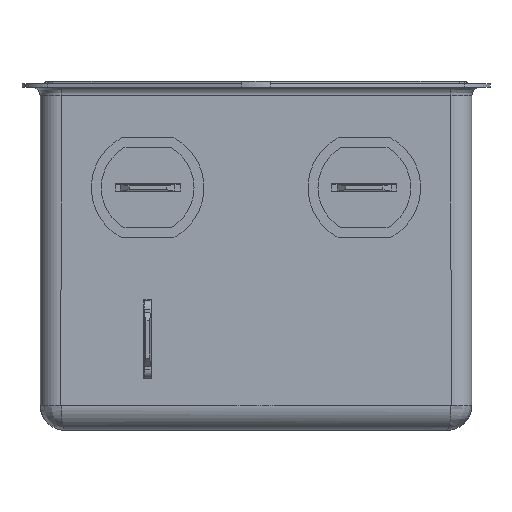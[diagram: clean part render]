
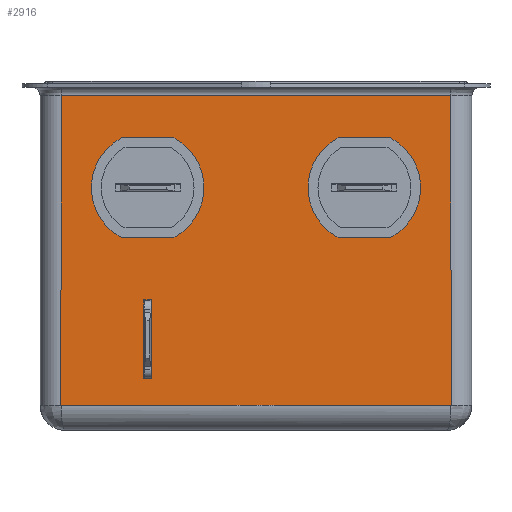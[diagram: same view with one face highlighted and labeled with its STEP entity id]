
A CAD part, left-side view. The second image highlights one B-rep face of the part: STEP entity #2916.
In plain terms, the highlighted planar face has unit normal (-1, 0, 0).
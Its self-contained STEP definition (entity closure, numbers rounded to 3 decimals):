
#2639=CARTESIAN_POINT('',(-32.4,15.531,-17.75));
#2640=VERTEX_POINT('',#2639);
#2641=CARTESIAN_POINT('',(-32.4,15.531,-6.25));
#2642=VERTEX_POINT('',#2641);
#2643=CARTESIAN_POINT('',(-32.4,12.5,-12.));
#2644=DIRECTION('',(1.,0.,0.));
#2645=DIRECTION('',(0.,0.466,0.885));
#2646=AXIS2_PLACEMENT_3D('',#2643,#2644,#2645);
#2647=CIRCLE('',#2646,6.5);
#2648=EDGE_CURVE('',#2640,#2642,#2647,.T.);
#2681=CARTESIAN_POINT('',(-32.4,9.469,-6.25));
#2682=VERTEX_POINT('',#2681);
#2683=CARTESIAN_POINT('',(-32.4,15.531,-6.25));
#2684=DIRECTION('',(0.0,-1.0,0.0));
#2685=VECTOR('',#2684,6.062);
#2686=LINE('',#2683,#2685);
#2687=EDGE_CURVE('',#2642,#2682,#2686,.T.);
#2733=CARTESIAN_POINT('',(-32.4,9.469,-17.75));
#2734=VERTEX_POINT('',#2733);
#2735=CARTESIAN_POINT('',(-32.4,12.5,-12.));
#2736=DIRECTION('',(1.,0.,0.));
#2737=DIRECTION('',(0.,-0.466,-0.885));
#2738=AXIS2_PLACEMENT_3D('',#2735,#2736,#2737);
#2739=CIRCLE('',#2738,6.5);
#2740=EDGE_CURVE('',#2682,#2734,#2739,.T.);
#2766=CARTESIAN_POINT('',(-32.4,9.469,-17.75));
#2767=DIRECTION('',(0.0,1.0,0.0));
#2768=VECTOR('',#2767,6.062);
#2769=LINE('',#2766,#2768);
#2770=EDGE_CURVE('',#2734,#2640,#2769,.T.);
#2801=CARTESIAN_POINT('',(-32.4,22.5,0.0));
#2802=DIRECTION('',(-1.0,0.0,0.0));
#2803=DIRECTION('',(0.0,0.0,1.0));
#2804=AXIS2_PLACEMENT_3D('',#2801,#2802,#2803);
#2805=PLANE('',#2804);
#2806=CARTESIAN_POINT('',(-32.4,22.5,-1.4));
#2807=VERTEX_POINT('',#2806);
#2808=CARTESIAN_POINT('',(-32.4,-22.5,-1.4));
#2809=VERTEX_POINT('',#2808);
#2810=CARTESIAN_POINT('',(-32.4,22.5,-1.4));
#2811=DIRECTION('',(0.0,-1.0,0.0));
#2812=VECTOR('',#2811,45.);
#2813=LINE('',#2810,#2812);
#2814=EDGE_CURVE('',#2807,#2809,#2813,.T.);
#2815=ORIENTED_EDGE('',*,*,#2814,.F.);
#2816=CARTESIAN_POINT('',(-32.4,22.5,-37.1));
#2817=VERTEX_POINT('',#2816);
#2818=CARTESIAN_POINT('',(-32.4,22.5,-1.4));
#2819=DIRECTION('',(0.0,0.0,-1.0));
#2820=VECTOR('',#2819,35.7);
#2821=LINE('',#2818,#2820);
#2822=EDGE_CURVE('',#2807,#2817,#2821,.T.);
#2823=ORIENTED_EDGE('',*,*,#2822,.T.);
#2824=CARTESIAN_POINT('',(-32.4,-22.5,-37.1));
#2825=VERTEX_POINT('',#2824);
#2826=CARTESIAN_POINT('',(-32.4,-22.5,-37.1));
#2827=DIRECTION('',(0.0,1.0,0.0));
#2828=VECTOR('',#2827,45.);
#2829=LINE('',#2826,#2828);
#2830=EDGE_CURVE('',#2825,#2817,#2829,.T.);
#2831=ORIENTED_EDGE('',*,*,#2830,.F.);
#2832=CARTESIAN_POINT('',(-32.4,-22.5,-1.4));
#2833=DIRECTION('',(0.0,0.0,-1.0));
#2834=VECTOR('',#2833,35.7);
#2835=LINE('',#2832,#2834);
#2836=EDGE_CURVE('',#2809,#2825,#2835,.T.);
#2837=ORIENTED_EDGE('',*,*,#2836,.F.);
#2838=EDGE_LOOP('',(#2815,#2823,#2831,#2837));
#2839=FACE_OUTER_BOUND('',#2838,.T.);
#2840=CARTESIAN_POINT('',(-32.4,-9.469,-17.75));
#2841=VERTEX_POINT('',#2840);
#2842=CARTESIAN_POINT('',(-32.4,-9.469,-6.25));
#2843=VERTEX_POINT('',#2842);
#2844=CARTESIAN_POINT('',(-32.4,-12.5,-12.));
#2845=DIRECTION('',(1.,0.,0.));
#2846=DIRECTION('',(0.,0.466,0.885));
#2847=AXIS2_PLACEMENT_3D('',#2844,#2845,#2846);
#2848=CIRCLE('',#2847,6.5);
#2849=EDGE_CURVE('',#2841,#2843,#2848,.T.);
#2850=ORIENTED_EDGE('',*,*,#2849,.T.);
#2851=CARTESIAN_POINT('',(-32.4,-15.531,-6.25));
#2852=VERTEX_POINT('',#2851);
#2853=CARTESIAN_POINT('',(-32.4,-9.469,-6.25));
#2854=DIRECTION('',(0.0,-1.0,0.0));
#2855=VECTOR('',#2854,6.062);
#2856=LINE('',#2853,#2855);
#2857=EDGE_CURVE('',#2843,#2852,#2856,.T.);
#2858=ORIENTED_EDGE('',*,*,#2857,.T.);
#2859=CARTESIAN_POINT('',(-32.4,-15.531,-17.75));
#2860=VERTEX_POINT('',#2859);
#2861=CARTESIAN_POINT('',(-32.4,-12.5,-12.));
#2862=DIRECTION('',(1.,0.,0.));
#2863=DIRECTION('',(0.,-0.466,-0.885));
#2864=AXIS2_PLACEMENT_3D('',#2861,#2862,#2863);
#2865=CIRCLE('',#2864,6.5);
#2866=EDGE_CURVE('',#2852,#2860,#2865,.T.);
#2867=ORIENTED_EDGE('',*,*,#2866,.T.);
#2868=CARTESIAN_POINT('',(-32.4,-15.531,-17.75));
#2869=DIRECTION('',(0.0,1.0,0.0));
#2870=VECTOR('',#2869,6.062);
#2871=LINE('',#2868,#2870);
#2872=EDGE_CURVE('',#2860,#2841,#2871,.T.);
#2873=ORIENTED_EDGE('',*,*,#2872,.T.);
#2874=EDGE_LOOP('',(#2850,#2858,#2867,#2873));
#2875=FACE_BOUND('',#2874,.T.);
#2876=CARTESIAN_POINT('',(-32.4,12.05,-34.05));
#2877=VERTEX_POINT('',#2876);
#2878=CARTESIAN_POINT('',(-32.4,12.95,-34.05));
#2879=VERTEX_POINT('',#2878);
#2880=CARTESIAN_POINT('',(-32.4,12.05,-34.05));
#2881=DIRECTION('',(0.0,1.0,0.0));
#2882=VECTOR('',#2881,0.9);
#2883=LINE('',#2880,#2882);
#2884=EDGE_CURVE('',#2877,#2879,#2883,.T.);
#2885=ORIENTED_EDGE('',*,*,#2884,.T.);
#2886=CARTESIAN_POINT('',(-32.4,12.95,-24.95));
#2887=VERTEX_POINT('',#2886);
#2888=CARTESIAN_POINT('',(-32.4,12.95,-34.05));
#2889=DIRECTION('',(0.0,0.0,1.0));
#2890=VECTOR('',#2889,9.1);
#2891=LINE('',#2888,#2890);
#2892=EDGE_CURVE('',#2879,#2887,#2891,.T.);
#2893=ORIENTED_EDGE('',*,*,#2892,.T.);
#2894=CARTESIAN_POINT('',(-32.4,12.05,-24.95));
#2895=VERTEX_POINT('',#2894);
#2896=CARTESIAN_POINT('',(-32.4,12.95,-24.95));
#2897=DIRECTION('',(0.0,-1.0,0.0));
#2898=VECTOR('',#2897,0.9);
#2899=LINE('',#2896,#2898);
#2900=EDGE_CURVE('',#2887,#2895,#2899,.T.);
#2901=ORIENTED_EDGE('',*,*,#2900,.T.);
#2902=CARTESIAN_POINT('',(-32.4,12.05,-24.95));
#2903=DIRECTION('',(0.0,0.0,-1.0));
#2904=VECTOR('',#2903,9.1);
#2905=LINE('',#2902,#2904);
#2906=EDGE_CURVE('',#2895,#2877,#2905,.T.);
#2907=ORIENTED_EDGE('',*,*,#2906,.T.);
#2908=EDGE_LOOP('',(#2885,#2893,#2901,#2907));
#2909=FACE_BOUND('',#2908,.T.);
#2910=ORIENTED_EDGE('',*,*,#2648,.T.);
#2911=ORIENTED_EDGE('',*,*,#2687,.T.);
#2912=ORIENTED_EDGE('',*,*,#2740,.T.);
#2913=ORIENTED_EDGE('',*,*,#2770,.T.);
#2914=EDGE_LOOP('',(#2910,#2911,#2912,#2913));
#2915=FACE_BOUND('',#2914,.T.);
#2916=ADVANCED_FACE('',(#2839,#2875,#2909,#2915),#2805,.T.);
